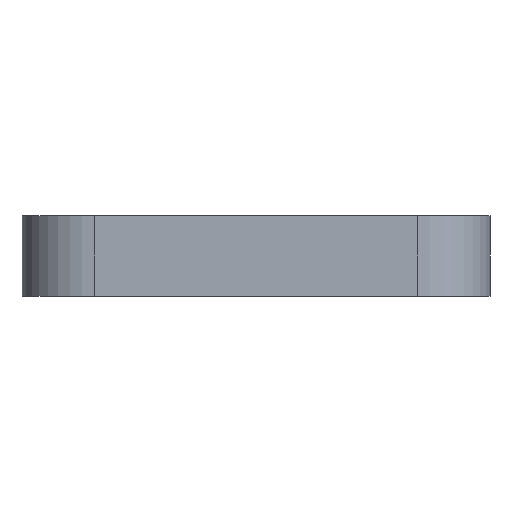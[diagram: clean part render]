
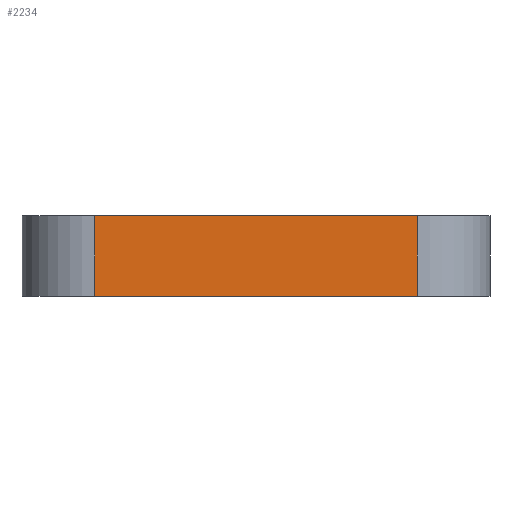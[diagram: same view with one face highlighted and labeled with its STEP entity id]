
A CAD part, front view. The second image highlights one B-rep face of the part: STEP entity #2234.
In plain terms, the highlighted planar face has unit normal (0, -1, 0).
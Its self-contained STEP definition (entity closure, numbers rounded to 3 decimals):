
#497=ORIENTED_EDGE('',*,*,#1108,.F.);
#498=ORIENTED_EDGE('',*,*,#1182,.F.);
#499=ORIENTED_EDGE('',*,*,#996,.T.);
#500=ORIENTED_EDGE('',*,*,#1183,.T.);
#996=EDGE_CURVE('',#1342,#1341,#1545,.T.);
#1108=EDGE_CURVE('',#1453,#1454,#1580,.T.);
#1182=EDGE_CURVE('',#1342,#1453,#1607,.T.);
#1183=EDGE_CURVE('',#1341,#1454,#1608,.T.);
#1341=VERTEX_POINT('',#3494);
#1342=VERTEX_POINT('',#3496);
#1453=VERTEX_POINT('',#3720);
#1454=VERTEX_POINT('',#3721);
#1545=LINE('',#3495,#1728);
#1580=LINE('',#3719,#1763);
#1607=LINE('',#3866,#1790);
#1608=LINE('',#3868,#1791);
#1728=VECTOR('',#2728,1000.);
#1763=VECTOR('',#2919,1000.);
#1790=VECTOR('',#3044,1000.);
#1791=VECTOR('',#3047,1000.);
#1914=EDGE_LOOP('',(#497,#498,#499,#500));
#2059=FACE_BOUND('',#1914,.T.);
#2191=PLANE('',#2524);
#2234=ADVANCED_FACE('',(#2059),#2191,.T.);
#2524=AXIS2_PLACEMENT_3D('',#3867,#3045,#3046);
#2728=DIRECTION('',(-1.,0.,0.));
#2919=DIRECTION('',(-1.,0.,0.));
#3044=DIRECTION('',(0.,0.,-1.));
#3045=DIRECTION('',(0.,-1.,0.));
#3046=DIRECTION('',(1.,0.,0.));
#3047=DIRECTION('',(0.,0.,-1.));
#3494=CARTESIAN_POINT('',(-8.,-3.6,4.));
#3495=CARTESIAN_POINT('',(8.,-3.6,4.));
#3496=CARTESIAN_POINT('',(8.,-3.6,4.));
#3719=CARTESIAN_POINT('',(8.,-3.6,0.));
#3720=CARTESIAN_POINT('',(8.,-3.6,0.));
#3721=CARTESIAN_POINT('',(-8.,-3.6,0.));
#3866=CARTESIAN_POINT('',(8.,-3.6,4.));
#3867=CARTESIAN_POINT('',(8.,-3.6,4.));
#3868=CARTESIAN_POINT('',(-8.,-3.6,4.));
